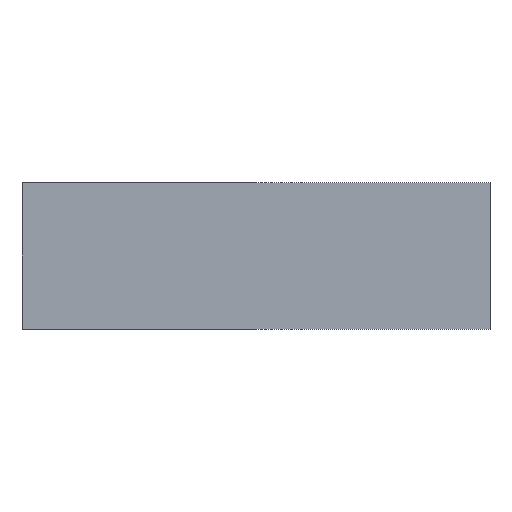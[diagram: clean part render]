
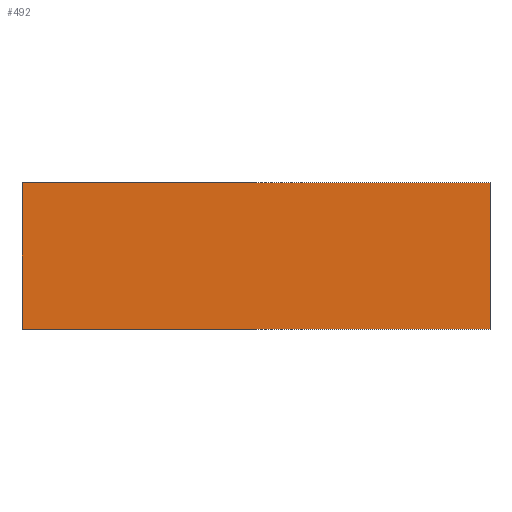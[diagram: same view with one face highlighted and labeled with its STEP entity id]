
A CAD part, front view. The second image highlights one B-rep face of the part: STEP entity #492.
In plain terms, the highlighted planar face has unit normal (0, -1, 0).
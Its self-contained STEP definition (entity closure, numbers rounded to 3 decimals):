
#10 = LINE ( 'NONE', #280, #28 ) ;
#28 = VECTOR ( 'NONE', #267, 1000. ) ;
#107 = FACE_OUTER_BOUND ( 'NONE', #829, .T. ) ;
#212 = DIRECTION ( 'NONE',  ( 0., 0., -1. ) ) ;
#213 = CARTESIAN_POINT ( 'NONE',  ( -104., 0., 65. ) ) ;
#215 = DIRECTION ( 'NONE',  ( 0., 0., -1. ) ) ;
#216 = CARTESIAN_POINT ( 'NONE',  ( 104., 0., 65. ) ) ;
#233 = DIRECTION ( 'NONE',  ( 1., 0., 0. ) ) ;
#235 = CARTESIAN_POINT ( 'NONE',  ( -104., 0., 0. ) ) ;
#267 = DIRECTION ( 'NONE',  ( 1., 0., 0. ) ) ;
#280 = CARTESIAN_POINT ( 'NONE',  ( -104., 0., 65. ) ) ;
#310 = CARTESIAN_POINT ( 'NONE',  ( -104., 0., 65. ) ) ;
#339 = CARTESIAN_POINT ( 'NONE',  ( -104., 0., 0. ) ) ;
#351 = CARTESIAN_POINT ( 'NONE',  ( 104., 0., 65. ) ) ;
#383 = VERTEX_POINT ( 'NONE', #550 ) ;
#388 = VERTEX_POINT ( 'NONE', #351 ) ;
#393 = VERTEX_POINT ( 'NONE', #310 ) ;
#474 = DIRECTION ( 'NONE',  ( -1., 0., 0. ) ) ;
#475 = DIRECTION ( 'NONE',  ( 0., 1., 0. ) ) ;
#481 = CARTESIAN_POINT ( 'NONE',  ( -104., 0., 65. ) ) ;
#484 = PLANE ( 'NONE',  #632 ) ;
#492 = ADVANCED_FACE ( 'NONE', ( #107 ), #484, .F. ) ;
#542 = VERTEX_POINT ( 'NONE', #339 ) ;
#550 = CARTESIAN_POINT ( 'NONE',  ( 104., 0., 0. ) ) ;
#595 = EDGE_CURVE ( 'NONE', #393, #388, #10, .T. ) ;
#606 = EDGE_CURVE ( 'NONE', #542, #383, #967, .T. ) ;
#612 = EDGE_CURVE ( 'NONE', #388, #383, #956, .T. ) ;
#613 = EDGE_CURVE ( 'NONE', #393, #542, #954, .T. ) ;
#632 = AXIS2_PLACEMENT_3D ( 'NONE', #481, #475, #474 ) ;
#799 = ORIENTED_EDGE ( 'NONE', *, *, #613, .T. ) ;
#800 = ORIENTED_EDGE ( 'NONE', *, *, #595, .F. ) ;
#801 = ORIENTED_EDGE ( 'NONE', *, *, #612, .F. ) ;
#802 = ORIENTED_EDGE ( 'NONE', *, *, #606, .T. ) ;
#829 = EDGE_LOOP ( 'NONE', ( #802, #801, #800, #799 ) ) ;
#953 = VECTOR ( 'NONE', #212, 1000. ) ;
#954 = LINE ( 'NONE', #213, #953 ) ;
#955 = VECTOR ( 'NONE', #215, 1000. ) ;
#956 = LINE ( 'NONE', #216, #955 ) ;
#966 = VECTOR ( 'NONE', #233, 1000. ) ;
#967 = LINE ( 'NONE', #235, #966 ) ;
